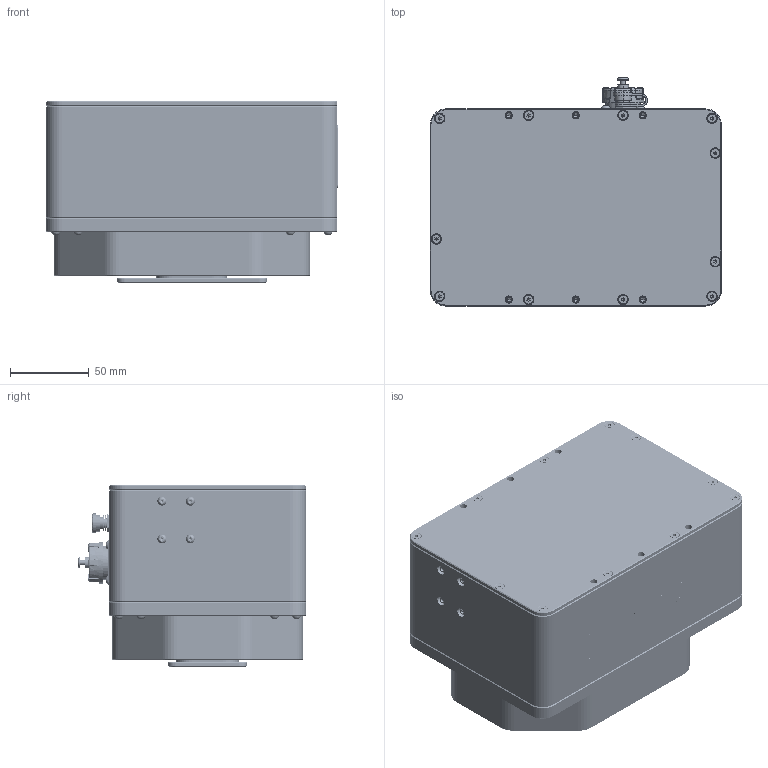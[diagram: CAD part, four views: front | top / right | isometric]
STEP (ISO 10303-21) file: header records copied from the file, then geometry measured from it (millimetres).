
FILE_DESCRIPTION (( 'STEP AP214' ), '1' );
FILE_NAME ('ECM1A-200-002A-000 腹雄耀輸.', '2025-10-14T03:08:26', ( 'selfweld_user' ), ( '' ), 'SwSTEP 2.0', 'SolidWorks 2022', '' );
FILE_SCHEMA (( 'AUTOMOTIVE_DESIGN' ));
Length unit declared in the file: millimetre
Products named in the file (1): ECM1A-200-002A-000 腹雄耀輸_㏒_谷__那_“|
Bounding box: 185.2 x 144.81 x 115 mm (x, y, z)
Volume: 670853.6 mm3; surface area: 336537.4 mm2
Topology: 77 solids, 78 shells, 4724 faces, 11232 edges, 6851 vertices
Faces by surface type: plane 2380, cylinder 1204, cone 711, torus 205, bspline 174, sphere 50
Entity records: 168729 total; most frequent: CARTESIAN_POINT 38844, DIRECTION 22871, ORIENTED_EDGE 22048, EDGE_CURVE 11024, AXIS2_PLACEMENT_3D 8122, VERTEX_POINT 6840, VECTOR 6627, LINE 6627
